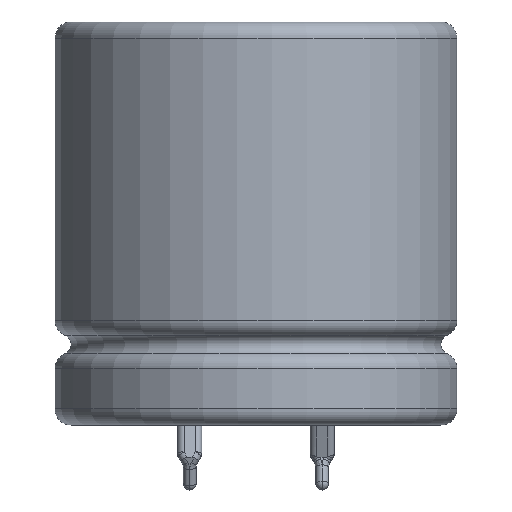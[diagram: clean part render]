
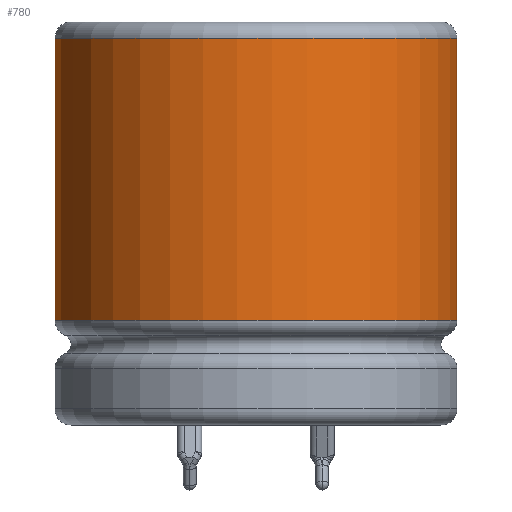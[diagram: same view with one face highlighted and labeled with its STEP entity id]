
A CAD part, left-side view. The second image highlights one B-rep face of the part: STEP entity #780.
In plain terms, the highlighted cylindrical face has radius 12.5 mm (diameter 25 mm), a partial arc.
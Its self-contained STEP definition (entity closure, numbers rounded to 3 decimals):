
#780=ADVANCED_FACE('',(#1064),#988,.T.);
#988=CYLINDRICAL_SURFACE('',#3980,12.5);
#1064=FACE_OUTER_BOUND('',#1259,.T.);
#1259=EDGE_LOOP('',(#1989,#1990,#1991,#1992));
#1481=LINE('',#5546,#1735);
#1482=LINE('',#5550,#1736);
#1735=VECTOR('',#4418,1.);
#1736=VECTOR('',#4421,1.);
#1989=ORIENTED_EDGE('',*,*,#3287,.F.);
#1990=ORIENTED_EDGE('',*,*,#3288,.F.);
#1991=ORIENTED_EDGE('',*,*,#3289,.T.);
#1992=ORIENTED_EDGE('',*,*,#3290,.T.);
#2977=VERTEX_POINT('',#5544);
#2978=VERTEX_POINT('',#5545);
#2979=VERTEX_POINT('',#5547);
#2980=VERTEX_POINT('',#5549);
#3287=EDGE_CURVE('',#2977,#2978,#3781,.T.);
#3288=EDGE_CURVE('',#2979,#2977,#1481,.T.);
#3289=EDGE_CURVE('',#2979,#2980,#3782,.T.);
#3290=EDGE_CURVE('',#2980,#2978,#1482,.T.);
#3781=CIRCLE('',#3978,12.5);
#3782=CIRCLE('',#3979,12.5);
#3978=AXIS2_PLACEMENT_3D('',#5543,#4416,#4417);
#3979=AXIS2_PLACEMENT_3D('',#5548,#4419,#4420);
#3980=AXIS2_PLACEMENT_3D('',#5551,#4422,#4423);
#4416=DIRECTION('',(0.,0.,-1.));
#4417=DIRECTION('',(-1.,0.,0.));
#4418=DIRECTION('',(0.,0.,-1.));
#4419=DIRECTION('',(0.,0.,-1.));
#4420=DIRECTION('',(-1.,0.,0.));
#4421=DIRECTION('',(0.,0.,-1.));
#4422=DIRECTION('',(0.,0.,-1.));
#4423=DIRECTION('',(-1.,0.,0.));
#5543=CARTESIAN_POINT('',(0.,0.,6.5));
#5544=CARTESIAN_POINT('',(5.084,-11.419,6.5));
#5545=CARTESIAN_POINT('',(11.419,-5.084,6.5));
#5546=CARTESIAN_POINT('',(5.084,-11.419,24.));
#5547=CARTESIAN_POINT('',(5.084,-11.419,24.));
#5548=CARTESIAN_POINT('',(0.,0.,24.));
#5549=CARTESIAN_POINT('',(11.419,-5.084,24.));
#5550=CARTESIAN_POINT('',(11.419,-5.084,24.));
#5551=CARTESIAN_POINT('',(0.,0.,0.));
